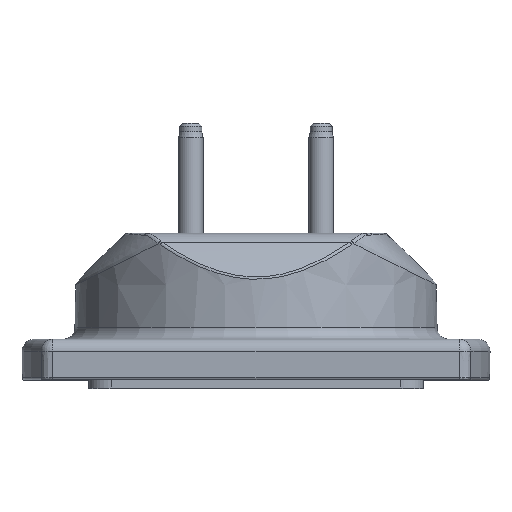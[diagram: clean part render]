
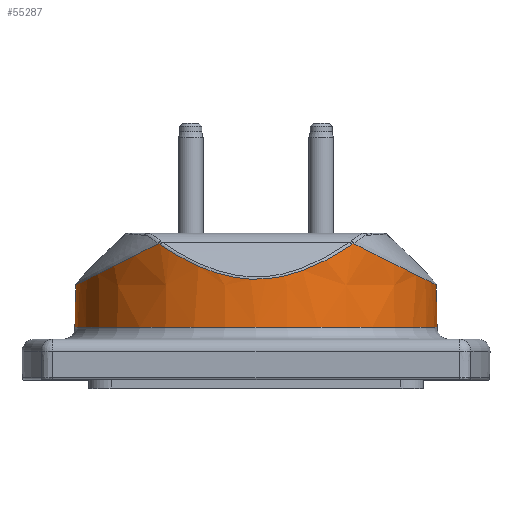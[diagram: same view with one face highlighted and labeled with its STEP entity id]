
A CAD part, top view. The second image highlights one B-rep face of the part: STEP entity #55287.
In plain terms, the highlighted conical face has half-angle 1 degrees and reference radius 44.27 mm.
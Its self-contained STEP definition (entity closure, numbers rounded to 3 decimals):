
#15621=CARTESIAN_POINT('',(-36.984,-23.436,
-24.004));
#15622=CARTESIAN_POINT('',(-37.019,-23.405,
-23.951));
#15623=CARTESIAN_POINT('',(-37.088,-23.342,
-23.847));
#15624=CARTESIAN_POINT('',(-37.188,-23.245,
-23.693));
#15625=CARTESIAN_POINT('',(-37.254,-23.179,
-23.592));
#15626=CARTESIAN_POINT('',(-37.286,-23.146,
-23.542));
#15631=CARTESIAN_POINT('',(0.,-13.369,
-44.267));
#15632=CARTESIAN_POINT('',(-1.981,-13.369,
-44.267));
#15633=CARTESIAN_POINT('',(-5.966,-13.5,
-43.996));
#15634=CARTESIAN_POINT('',(-11.85,-14.091,
-42.779));
#15635=CARTESIAN_POINT('',(-17.561,-15.079,
-40.753));
#15636=CARTESIAN_POINT('',(-23.,-16.465,
-37.926));
#15637=CARTESIAN_POINT('',(-28.064,-18.25,
-34.314));
#15638=CARTESIAN_POINT('',(-32.638,-20.427,
-29.948));
#15639=CARTESIAN_POINT('',(-35.446,-22.238,
-26.359));
#15640=CARTESIAN_POINT('',(-36.796,-23.286,
-24.299));
#15641=CARTESIAN_POINT('',(-36.984,-23.436,
-24.004));
#15646=CARTESIAN_POINT('',(0.,-2.948,0.));
#15647=DIRECTION('',(0.,-1.,0.));
#15648=DIRECTION('',(0.,0.,1.));
#15649=AXIS2_PLACEMENT_3D('',#15646,#15647,#15648);
#15654=DIRECTION('',(0.,-1.,
-0.017));
#15655=VECTOR('',#15654,10.423);
#15656=CARTESIAN_POINT('',(0.,-2.948,
44.449));
#15657=LINE('',#15656,#15655);
#15661=CARTESIAN_POINT('',(-36.984,-23.436,
24.004));
#15662=CARTESIAN_POINT('',(-36.795,-23.285,
24.3));
#15663=CARTESIAN_POINT('',(-35.445,-22.238,
26.36));
#15664=CARTESIAN_POINT('',(-32.637,-20.426,
29.95));
#15665=CARTESIAN_POINT('',(-28.062,-18.249,
34.316));
#15666=CARTESIAN_POINT('',(-22.999,-16.465,
37.927));
#15667=CARTESIAN_POINT('',(-17.558,-15.078,
40.754));
#15668=CARTESIAN_POINT('',(-11.848,-14.091,
42.78));
#15669=CARTESIAN_POINT('',(-5.964,-13.5,
43.996));
#15670=CARTESIAN_POINT('',(-1.98,-13.369,
44.267));
#15671=CARTESIAN_POINT('',(0.,-13.369,
44.267));
#15676=CARTESIAN_POINT('',(-37.286,-23.146,
23.542));
#15677=CARTESIAN_POINT('',(-37.254,-23.179,
23.592));
#15678=CARTESIAN_POINT('',(-37.188,-23.245,
23.693));
#15679=CARTESIAN_POINT('',(-37.088,-23.342,
23.847));
#15680=CARTESIAN_POINT('',(-37.019,-23.405,
23.951));
#15681=CARTESIAN_POINT('',(-36.984,-23.436,
24.004));
#15686=CARTESIAN_POINT('',(-37.286,-23.146,
-23.542));
#15687=CARTESIAN_POINT('',(-38.098,-22.309,
-22.283));
#15688=CARTESIAN_POINT('',(-39.57,-20.706,
-19.726));
#15689=CARTESIAN_POINT('',(-41.388,-18.533,
-15.647));
#15690=CARTESIAN_POINT('',(-42.674,-16.873,
-11.753));
#15691=CARTESIAN_POINT('',(-43.535,-15.701,
-8.07));
#15692=CARTESIAN_POINT('',(-44.055,-14.966,
-4.511));
#15693=CARTESIAN_POINT('',(-44.279,-14.644,
-1.015));
#15694=CARTESIAN_POINT('',(-44.219,-14.73,
2.558));
#15695=CARTESIAN_POINT('',(-43.837,-15.278,
6.34));
#15696=CARTESIAN_POINT('',(-43.041,-16.382,
10.415));
#15697=CARTESIAN_POINT('',(-41.748,-18.087,
14.744));
#15698=CARTESIAN_POINT('',(-39.727,-20.535,
19.459));
#15699=CARTESIAN_POINT('',(-38.148,-22.257,
22.206));
#15700=CARTESIAN_POINT('',(-37.286,-23.146,
23.542));
#15917=CARTESIAN_POINT('',(0.,-13.369,
44.267));
#16031=DIRECTION('',(0.,-1.,0.017));
#16032=VECTOR('',#16031,10.423);
#16033=CARTESIAN_POINT('',(0.,-2.948,
-44.449));
#16034=LINE('',#16033,#16032);
#36577=VERTEX_POINT('',#15917);
#36583=CARTESIAN_POINT('',(0.,-2.948,44.449));
#36584=CARTESIAN_POINT('',(0.,-2.948,-44.449));
#36585=VERTEX_POINT('',#36583);
#36586=VERTEX_POINT('',#36584);
#36587=CARTESIAN_POINT('',(0.,-13.369,
-44.267));
#36588=VERTEX_POINT('',#36587);
#36621=VERTEX_POINT('',#15621);
#36622=VERTEX_POINT('',#15626);
#36625=VERTEX_POINT('',#15700);
#36627=VERTEX_POINT('',#15681);
#55266=CARTESIAN_POINT('',(0.,-13.192,0.));
#55267=DIRECTION('',(0.,1.,0.));
#55268=DIRECTION('',(0.,0.,-1.));
#55269=AXIS2_PLACEMENT_3D('',#55266,#55267,#55268);
#55270=CONICAL_SURFACE('',#55269,44.27,1.);
#55271=ORIENTED_EDGE('',*,*,#55256,.F.);
#55273=ORIENTED_EDGE('',*,*,#55272,.F.);
#55275=ORIENTED_EDGE('',*,*,#55274,.F.);
#55277=ORIENTED_EDGE('',*,*,#55276,.F.);
#55279=ORIENTED_EDGE('',*,*,#55278,.T.);
#55280=ORIENTED_EDGE('',*,*,#55149,.F.);
#55282=ORIENTED_EDGE('',*,*,#55281,.F.);
#55284=ORIENTED_EDGE('',*,*,#55283,.F.);
#55285=EDGE_LOOP('',(#55271,#55273,#55275,#55277,#55279,#55280,#55282,#55284));
#55286=FACE_OUTER_BOUND('',#55285,.F.);
#15627=B_SPLINE_CURVE_WITH_KNOTS('',3,(#15621,#15622,#15623,#15624,#15625,
#15626),.UNSPECIFIED.,.F.,.F.,(4,1,1,4),(0.,0.333,
0.667,1.),.UNSPECIFIED.);
#15642=B_SPLINE_CURVE_WITH_KNOTS('',3,(#15631,#15632,#15633,#15634,#15635,
#15636,#15637,#15638,#15639,#15640,#15641),.UNSPECIFIED.,.F.,.F.,(4,1,1,1,1,1,1,
1,4),(0.,0.129,0.259,0.393,
0.53,0.672,0.82,0.974,1.),
.UNSPECIFIED.);
#15650=CIRCLE('',#15649,44.449);
#15672=B_SPLINE_CURVE_WITH_KNOTS('',3,(#15661,#15662,#15663,#15664,#15665,
#15666,#15667,#15668,#15669,#15670,#15671),.UNSPECIFIED.,.F.,.F.,(4,1,1,1,1,1,1,
1,4),(0.,0.026,0.18,0.328,
0.47,0.607,0.741,0.871,1.),
.UNSPECIFIED.);
#15682=B_SPLINE_CURVE_WITH_KNOTS('',3,(#15676,#15677,#15678,#15679,#15680,
#15681),.UNSPECIFIED.,.F.,.F.,(4,1,1,4),(0.,0.333,
0.667,1.),.UNSPECIFIED.);
#15701=B_SPLINE_CURVE_WITH_KNOTS('',3,(#15686,#15687,#15688,#15689,#15690,
#15691,#15692,#15693,#15694,#15695,#15696,#15697,#15698,#15699,#15700),
.UNSPECIFIED.,.F.,.F.,(4,1,1,1,1,1,1,1,1,1,1,1,4),(0.,0.083,
0.167,0.25,0.333,0.417,0.5,
0.583,0.667,0.75,0.833,0.917,
1.),.UNSPECIFIED.);
#55149=EDGE_CURVE('',#36627,#36577,#15672,.T.);
#55256=EDGE_CURVE('',#36621,#36622,#15627,.T.);
#55272=EDGE_CURVE('',#36588,#36621,#15642,.T.);
#55274=EDGE_CURVE('',#36586,#36588,#16034,.T.);
#55276=EDGE_CURVE('',#36585,#36586,#15650,.T.);
#55278=EDGE_CURVE('',#36585,#36577,#15657,.T.);
#55281=EDGE_CURVE('',#36625,#36627,#15682,.T.);
#55283=EDGE_CURVE('',#36622,#36625,#15701,.T.);
#55287=ADVANCED_FACE('',(#55286),#55270,.T.);
